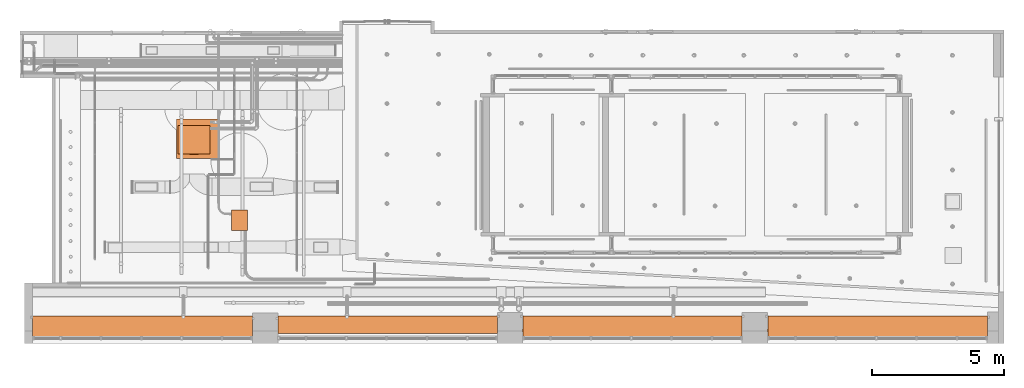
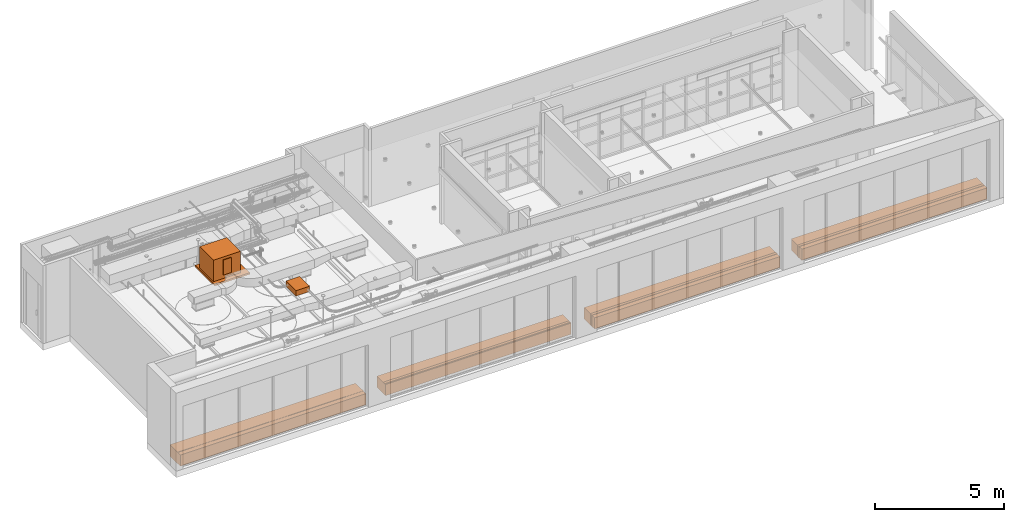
# One storey, part 108 of 108: 6 proxies.
"""IFC4 building model written with IfcOpenShell, lengths in feet."""

from ifc_helpers import new_model, entity, si_unit, converted_unit, derived_unit, direction, frame, frame_2d, origin, origin_2d_with_axis, place, context, subcontext, project, spatial, rectangle, extrude, source, transform, mapped, type_object, type_shapes, element, save


model = new_model("IFC4")

# Units and contexts
model_context = context("Model", 3, precision=0.0001, world=origin(), true_north=direction((6.12303176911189e-17, 1.0)))
body_context = subcontext(model_context, "Body", "Model", "MODEL_VIEW")
ifc_project = project(units=[converted_unit("LENGTHUNIT", "FOOT", entity("IfcRatioMeasure", 0.3048), si_unit("LENGTHUNIT", "METRE"), dimensions=[1, 0, 0, 0, 0, 0, 0]), converted_unit("AREAUNIT", "SQUARE FOOT", entity("IfcRatioMeasure", 0.09290304), si_unit("AREAUNIT", "SQUARE_METRE"), dimensions=[2, 0, 0, 0, 0, 0, 0]), converted_unit("VOLUMEUNIT", "CUBIC FOOT", entity("IfcRatioMeasure", 0.028316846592), si_unit("VOLUMEUNIT", "CUBIC_METRE"), dimensions=[3, 0, 0, 0, 0, 0, 0]), converted_unit("PLANEANGLEUNIT", "DEGREE", entity("IfcRatioMeasure", 0.0174532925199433), si_unit("PLANEANGLEUNIT", "RADIAN"), dimensions=[0, 0, 0, 0, 0, 0, 0]), si_unit("MASSUNIT", "GRAM", prefix="KILO"), derived_unit("MASSDENSITYUNIT", [(si_unit("MASSUNIT", "GRAM", prefix="KILO"), 1), (si_unit("LENGTHUNIT", "METRE"), -3)]), si_unit("TIMEUNIT", "SECOND"), si_unit("FREQUENCYUNIT", "HERTZ"), si_unit("THERMODYNAMICTEMPERATUREUNIT", "DEGREE_CELSIUS"), derived_unit("THERMALTRANSMITTANCEUNIT", [(si_unit("MASSUNIT", "GRAM", prefix="KILO"), 1), (si_unit("THERMODYNAMICTEMPERATUREUNIT", "KELVIN"), -1), (si_unit("TIMEUNIT", "SECOND"), -3)]), derived_unit("VOLUMETRICFLOWRATEUNIT", [(si_unit("LENGTHUNIT", "METRE"), 3), (si_unit("TIMEUNIT", "SECOND"), -1)]), si_unit("ELECTRICCURRENTUNIT", "AMPERE"), si_unit("ELECTRICVOLTAGEUNIT", "VOLT"), si_unit("POWERUNIT", "WATT"), si_unit("FORCEUNIT", "NEWTON"), si_unit("ILLUMINANCEUNIT", "LUX"), si_unit("LUMINOUSFLUXUNIT", "LUMEN"), si_unit("LUMINOUSINTENSITYUNIT", "CANDELA"), derived_unit("USERDEFINED", [(si_unit("MASSUNIT", "GRAM", prefix="KILO"), -1), (si_unit("LENGTHUNIT", "METRE"), -2), (si_unit("TIMEUNIT", "SECOND"), 3), (si_unit("LUMINOUSFLUXUNIT", "LUMEN"), 1)]), derived_unit("LINEARVELOCITYUNIT", [(si_unit("LENGTHUNIT", "METRE"), 1), (si_unit("TIMEUNIT", "SECOND"), -1)]), si_unit("PRESSUREUNIT", "PASCAL"), derived_unit("USERDEFINED", [(si_unit("LENGTHUNIT", "METRE"), -2), (si_unit("MASSUNIT", "GRAM", prefix="KILO"), 1), (si_unit("TIMEUNIT", "SECOND"), -2)])], contexts=[model_context])

# Site, building, storey
site_placement = place(None, origin())
site = spatial("IfcSite", under=ifc_project, at=site_placement, Name="Default", CompositionType="ELEMENT")
building_placement = place(site_placement, origin())
building = spatial("IfcBuilding", under=site, at=building_placement, CompositionType="ELEMENT")
storey_placement = place(building_placement, frame((0.0, 0.0, 168.0)))
storey = spatial("IfcBuildingStorey", under=building, at=storey_placement, Name="Level 15", CompositionType="ELEMENT", Elevation=168.0)

# Proxies
building_element_proxy_type_1 = type_object("IfcBuildingElementProxyType", Name="Radiator", PredefinedType="NOTDEFINED")
shared_shape_1 = source(origin(), body_context, "Body", "SweptSolid", [
    extrude(rectangle(XDim=2.67119207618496, YDim=27.1817017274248, at=frame_2d((-3.5527136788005e-15, 3.5527136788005e-15), x_axis=(1.0, 0.0))), frame((13.5908508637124, 1.33559603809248, 0.0), z_axis=(0.0, 0.0, 1.0), x_axis=(0.0, -1.0, 0.0)), (0.0, 0.0, 1.0), 1.72581407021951),
])
type_shapes(building_element_proxy_type_1, [shared_shape_1])
proxy_1_placement = place(storey_placement, frame((32.6343124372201, -22.3907690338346, 0.0)))
element("IfcBuildingElementProxy", 1, at=proxy_1_placement, inside=storey, type_object=building_element_proxy_type_1, Name="Radiator:Radiator", ObjectType="Radiator:Radiator", context=body_context, shape_type="MappedRepresentation", body=[
    mapped(shared_shape_1, transform((0.0, 0.0, 0.0), scale=1.0)),
])
building_element_proxy_type_2 = type_object("IfcBuildingElementProxyType", Name="Radiator", PredefinedType="NOTDEFINED")
shared_shape_2 = source(origin(), body_context, "Body", "SweptSolid", [
    extrude(rectangle(XDim=27.1927038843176, YDim=2.67119207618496, at=origin_2d_with_axis()), frame((13.5963519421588, 1.33559603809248, 0.0), z_axis=(0.0, 0.0, 1.0), x_axis=(-1.0, 0.0, 0.0)), (0.0, 0.0, 1.0), 1.72581407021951),
])
type_shapes(building_element_proxy_type_2, [shared_shape_2])
proxy_2_placement = place(storey_placement, frame((2.23853681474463, -22.3907690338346, 0.0)))
element("IfcBuildingElementProxy", 2, at=proxy_2_placement, inside=storey, type_object=building_element_proxy_type_2, Name="Radiator1:Radiator", ObjectType="Radiator1:Radiator", context=body_context, shape_type="MappedRepresentation", body=[
    mapped(shared_shape_2, transform((0.0, 0.0, 0.0), scale=1.0)),
])
building_element_proxy_type_3 = type_object("IfcBuildingElementProxyType", Name="Radiator", PredefinedType="NOTDEFINED")
shared_shape_3 = source(origin(), body_context, "Body", "SweptSolid", [
    extrude(rectangle(XDim=2.17119207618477, YDim=27.2291089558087, at=frame_2d((1.77635683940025e-15, 0.0), x_axis=(1.0, 0.0))), frame((13.6145544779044, 1.08559603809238, 0.0), z_axis=(0.0, 0.0, 1.0), x_axis=(0.0, -1.0, 0.0)), (0.0, 0.0, 1.0), 1.72581407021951),
])
type_shapes(building_element_proxy_type_3, [shared_shape_3])
proxy_3_placement = place(storey_placement, frame((-28.1312015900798, -21.8907690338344, 0.0)))
element("IfcBuildingElementProxy", 3, at=proxy_3_placement, inside=storey, type_object=building_element_proxy_type_3, Name="Radiator2:Radiator", ObjectType="Radiator2:Radiator", context=body_context, shape_type="MappedRepresentation", body=[
    mapped(shared_shape_3, transform((0.0, 0.0, 0.0), scale=1.0)),
])
building_element_proxy_type_4 = type_object("IfcBuildingElementProxyType", Name="Radiator", PredefinedType="NOTDEFINED")
shared_shape_4 = source(origin(), body_context, "Body", "SweptSolid", [
    extrude(rectangle(XDim=0.37188036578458, YDim=27.2291089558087, at=frame_2d((1.77635683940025e-15, 0.0), x_axis=(1.0, 0.0))), frame((104.712040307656, 0.848384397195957, 0.0), z_axis=(0.0, 0.0, 1.0), x_axis=(0.0, 1.0, 0.0)), (0.0, 0.0, 1.0), 1.77106536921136),
    extrude(rectangle(XDim=27.2291089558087, YDim=0.37188036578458, at=frame_2d((1.77635683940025e-15, -1.77635683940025e-15), x_axis=(1.0, 0.0))), frame((74.3423019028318, 0.848384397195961, 0.0)), (0.0, 0.0, 1.0), 1.77106536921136),
    extrude(rectangle(XDim=0.37188036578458, YDim=27.2291089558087, at=frame_2d((1.77635683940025e-15, 0.0), x_axis=(1.0, 0.0))), frame((44.0089685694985, 0.848384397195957, 0.0), z_axis=(0.0, 0.0, 1.0), x_axis=(0.0, 1.0, 0.0)), (0.0, 0.0, 1.0), 1.77106536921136),
    extrude(rectangle(XDim=27.2396812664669, YDim=0.37188036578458, at=frame_2d((-1.77635683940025e-15, -1.77635683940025e-15), x_axis=(1.0, 0.0))), frame((13.6198406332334, 0.848384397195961, 0.0)), (0.0, 0.0, 1.0), 1.77106536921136),
    extrude(rectangle(XDim=27.2291089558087, YDim=2.67119207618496, at=frame_2d((1.77635683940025e-15, 0.0), x_axis=(1.0, 0.0))), frame((13.6145544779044, 1.33559603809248, 0.0), z_axis=(0.0, 0.0, 1.0), x_axis=(-1.0, 0.0, 0.0)), (0.0, 0.0, 1.0), 1.72581407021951),
])
type_shapes(building_element_proxy_type_4, [shared_shape_4])
proxy_4_placement = place(storey_placement, frame((-58.5256156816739, -22.3907690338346, 0.0)))
element("IfcBuildingElementProxy", 4, at=proxy_4_placement, inside=storey, type_object=building_element_proxy_type_4, Name="Radiator3:Radiator", ObjectType="Radiator3:Radiator", context=body_context, shape_type="MappedRepresentation", body=[
    mapped(shared_shape_4, transform((0.0, 0.0, 0.0), scale=1.0)),
])
building_element_proxy_type_5 = type_object("IfcBuildingElementProxyType", Name="Mechanical Equipment_Unit 01", PredefinedType="NOTDEFINED")
shared_shape_5 = source(origin(), body_context, "Body", "SweptSolid", [
    extrude(rectangle(XDim=1.16666666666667, YDim=0.0833333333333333, at=frame_2d((0.0, -1.11022302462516e-16), x_axis=(1.0, 0.0))), frame((0.0, -1.79166666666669, 0.833333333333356), z_axis=(0.0, 0.0, 1.0), x_axis=(-1.0, 0.0, 0.0)), (0.0, 0.0, 1.0), 2.33333333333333),
    extrude(rectangle(XDim=5.16666666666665, YDim=4.91666666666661, at=origin_2d_with_axis()), frame((0.416666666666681, 0.124999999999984, 0.0), z_axis=(0.0, 0.0, 1.0), x_axis=(-1.0, 0.0, 0.0)), (0.0, 0.0, 1.0), 0.25),
    extrude(rectangle(XDim=3.99999999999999, YDim=3.49999999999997, at=origin_2d_with_axis()), frame((0.0, 0.0, 0.25), z_axis=(0.0, 0.0, 1.0), x_axis=(-1.0, 0.0, 0.0)), (0.0, 0.0, 1.0), 3.33333333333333),
])
type_shapes(building_element_proxy_type_5, [shared_shape_5])
proxy_5_placement = place(storey_placement, frame((-38.5244143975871, 2.1323608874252, 8.24999999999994)))
element("IfcBuildingElementProxy", 5, at=proxy_5_placement, inside=storey, type_object=building_element_proxy_type_5, Name="Mechanical Equipment_Unit 01:Mechanical Equipment_Unit 01", ObjectType="Mechanical Equipment_Unit 01:Mechanical Equipment_Unit 01", context=body_context, shape_type="MappedRepresentation", body=[
    mapped(shared_shape_5, transform((0.0, 0.0, 0.0), scale=1.0)),
])
building_element_proxy_type_6 = type_object("IfcBuildingElementProxyType", Name="Electrical Equipment", PredefinedType="NOTDEFINED")
shared_shape_6 = source(origin(), body_context, "Body", "SweptSolid", [
    extrude(rectangle(XDim=2.0, YDim=2.5, at=origin_2d_with_axis()), frame((0.0, 0.0, 0.0), z_axis=(0.0, 0.0, 1.0), x_axis=(-1.0, 0.0, 0.0)), (0.0, 0.0, 1.0), 0.833333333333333),
])
type_shapes(building_element_proxy_type_6, [shared_shape_6])
proxy_6_placement = place(storey_placement, frame((-32.8787451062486, -7.853684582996, 9.70833333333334)))
element("IfcBuildingElementProxy", 6, at=proxy_6_placement, inside=storey, type_object=building_element_proxy_type_6, Name="Electrical Equipment:Electrical Equipment", ObjectType="Electrical Equipment:Electrical Equipment", context=body_context, shape_type="MappedRepresentation", body=[
    mapped(shared_shape_6, transform((0.0, 0.0, 0.0), scale=1.0)),
])

save(model, "model.ifc")
